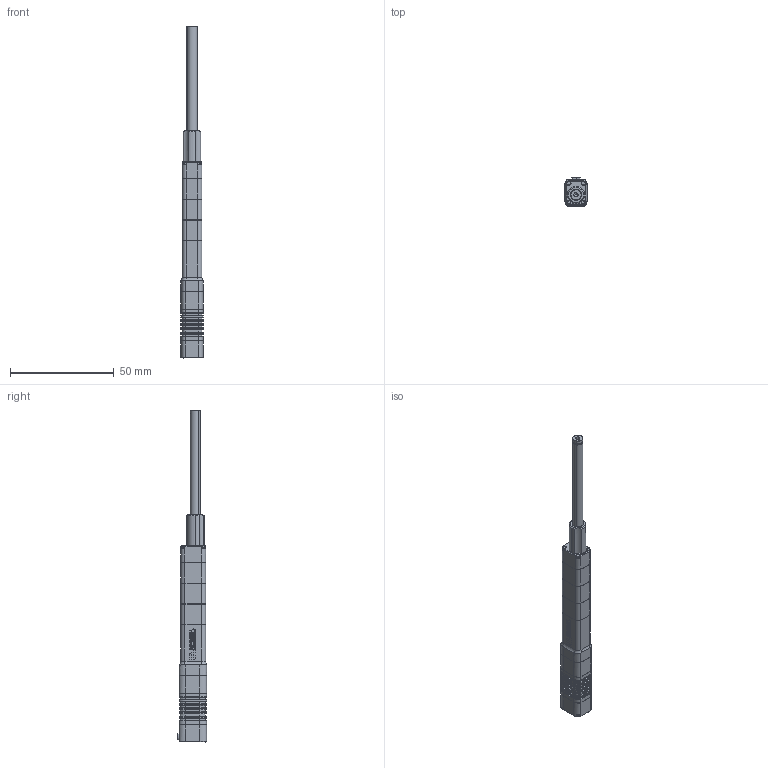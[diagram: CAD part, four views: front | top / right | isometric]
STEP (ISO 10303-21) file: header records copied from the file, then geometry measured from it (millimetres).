
FILE_DESCRIPTION (( 'STEP AP214' ), '1' );
FILE_NAME ('LA50-0x1D-俋楷.STEP', '2022-12-27T08:57:21', ( '' ), ( '' ), '', '', '' );
FILE_SCHEMA (( 'AUTOMOTIVE_DESIGN' ));
Length unit declared in the file: millimetre
Products named in the file (3): 驱动器L50-1D外发; A820150-015芢裝-俋楷; LA50-0x1D-俋楷
Assembly tree (2 placements, depth 2):
  LA50-0x1D-俋楷
    A820150-015芢裝-俋楷
    驱动器L50-1D外发
Bounding box: 10.8 x 14 x 160 mm (x, y, z)
Volume: 11919.1 mm3; surface area: 7230.6 mm2
Topology: 2 solids, 4 shells, 1615 faces, 4151 edges, 2665 vertices
Faces by surface type: plane 867, bspline 556, cylinder 134, cone 54, torus 4
Entity records: 61521 total; most frequent: CARTESIAN_POINT 25884, ORIENTED_EDGE 8298, DIRECTION 5485, EDGE_CURVE 4149, VECTOR 2709, LINE 2709, VERTEX_POINT 2665, EDGE_LOOP 1742
